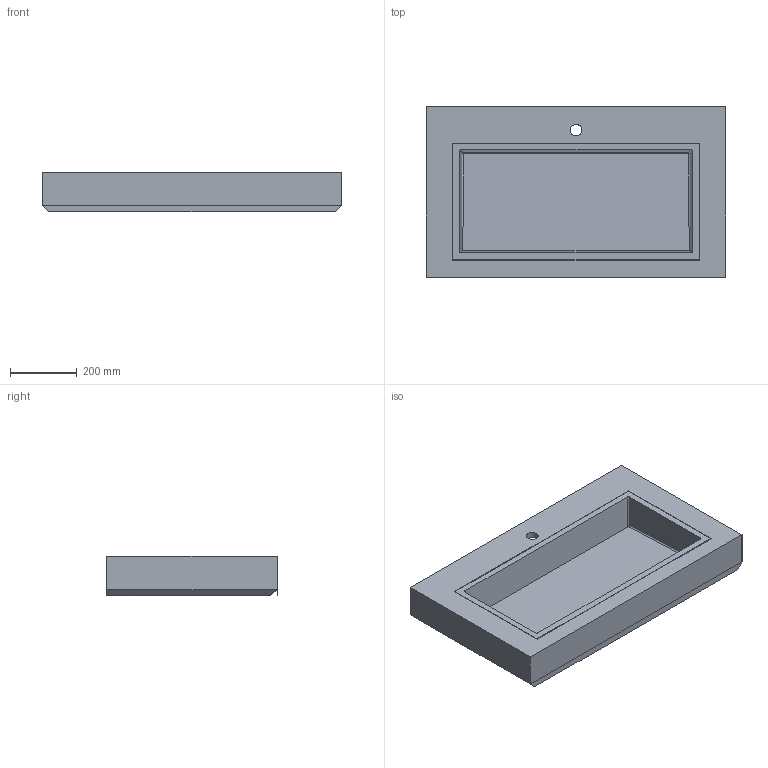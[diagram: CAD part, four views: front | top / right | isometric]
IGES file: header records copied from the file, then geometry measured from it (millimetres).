
Start section: Data from Parasolid IGES Translator 19.0.9, Copyright(c) 2006 Siemens PL M Software. All Rights Reserved.
Global section: file name: noorth-top-H 11,9 D 51,3 W 90_6546.igs; native system: By Siemens PLM Incorporated; preprocessor: XPlus GENERIC/IGES 19.0.9; author: Noname; organization: Noname; date: 20200603.094731; units: metre
Bounding box: 900 x 512 x 119.23 mm (x, y, z)
Volume: 12296762.3 mm3; surface area: 1821579.1 mm2
Topology: 2 solids, 2 shells, 111 faces, 266 edges, 156 vertices
Faces by surface type: plane 49, cylinder 34, bspline 28
Full cylindrical faces by diameter (mm): 34.9 x1
